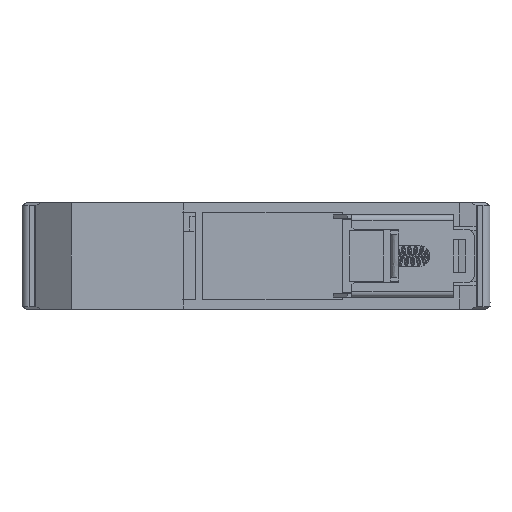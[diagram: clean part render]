
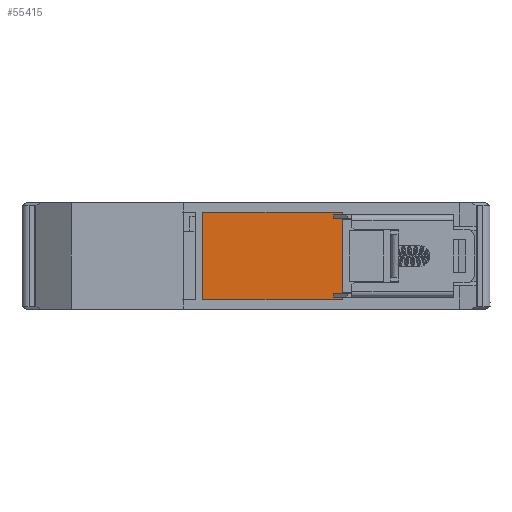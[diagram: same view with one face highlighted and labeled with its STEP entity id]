
A CAD part, front view. The second image highlights one B-rep face of the part: STEP entity #55415.
In plain terms, the highlighted planar face has unit normal (0, -1, 0).
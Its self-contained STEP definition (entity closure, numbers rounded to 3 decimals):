
#14002 = PLANE('',#14003);
#14003 = AXIS2_PLACEMENT_3D('',#14004,#14005,#14006);
#14004 = CARTESIAN_POINT('',(234.989,-403.101,
    154.775));
#14005 = DIRECTION('',(1.,0.,0.));
#14006 = DIRECTION('',(0.,0.,1.));
#14022 = VERTEX_POINT('',#14023);
#14023 = CARTESIAN_POINT('',(234.989,-402.101,145.5));
#14037 = PLANE('',#14038);
#14038 = AXIS2_PLACEMENT_3D('',#14039,#14040,#14041);
#14039 = CARTESIAN_POINT('',(249.789,-403.101,145.5));
#14040 = DIRECTION('',(0.,0.,1.));
#14041 = DIRECTION('',(0.,-1.,0.));
#14049 = EDGE_CURVE('',#14022,#14050,#14052,.T.);
#14050 = VERTEX_POINT('',#14051);
#14051 = CARTESIAN_POINT('',(234.989,-402.101,164.05));
#14052 = SURFACE_CURVE('',#14053,(#14057,#14064),.PCURVE_S1.);
#14053 = LINE('',#14054,#14055);
#14054 = CARTESIAN_POINT('',(234.989,-402.101,145.5));
#14055 = VECTOR('',#14056,1.);
#14056 = DIRECTION('',(0.,0.,1.));
#14057 = PCURVE('',#14002,#14058);
#14058 = DEFINITIONAL_REPRESENTATION('',(#14059),#14063);
#14059 = LINE('',#14060,#14061);
#14060 = CARTESIAN_POINT('',(-9.275,-1.));
#14061 = VECTOR('',#14062,1.);
#14062 = DIRECTION('',(1.,0.));
#14063 = ( GEOMETRIC_REPRESENTATION_CONTEXT(2) 
PARAMETRIC_REPRESENTATION_CONTEXT() REPRESENTATION_CONTEXT('2D SPACE',''
  ) );
#14064 = PCURVE('',#14065,#14070);
#14065 = PLANE('',#14066);
#14066 = AXIS2_PLACEMENT_3D('',#14067,#14068,#14069);
#14067 = CARTESIAN_POINT('',(249.789,-402.101,
    154.766));
#14068 = DIRECTION('',(0.,-1.,0.));
#14069 = DIRECTION('',(0.,0.,-1.));
#14070 = DEFINITIONAL_REPRESENTATION('',(#14071),#14075);
#14071 = LINE('',#14072,#14073);
#14072 = CARTESIAN_POINT('',(9.266,-14.8));
#14073 = VECTOR('',#14074,1.);
#14074 = DIRECTION('',(-1.,0.));
#14075 = ( GEOMETRIC_REPRESENTATION_CONTEXT(2) 
PARAMETRIC_REPRESENTATION_CONTEXT() REPRESENTATION_CONTEXT('2D SPACE',''
  ) );
#14091 = PLANE('',#14092);
#14092 = AXIS2_PLACEMENT_3D('',#14093,#14094,#14095);
#14093 = CARTESIAN_POINT('',(249.789,-403.101,164.05));
#14094 = DIRECTION('',(0.,0.,-1.));
#14095 = DIRECTION('',(0.,1.,0.));
#14130 = EDGE_CURVE('',#14050,#14131,#14133,.T.);
#14131 = VERTEX_POINT('',#14132);
#14132 = CARTESIAN_POINT('',(264.589,-402.101,164.05));
#14133 = SURFACE_CURVE('',#14134,(#14138,#14145),.PCURVE_S1.);
#14134 = LINE('',#14135,#14136);
#14135 = CARTESIAN_POINT('',(234.989,-402.101,164.05));
#14136 = VECTOR('',#14137,1.);
#14137 = DIRECTION('',(1.,0.,0.));
#14138 = PCURVE('',#14091,#14139);
#14139 = DEFINITIONAL_REPRESENTATION('',(#14140),#14144);
#14140 = LINE('',#14141,#14142);
#14141 = CARTESIAN_POINT('',(1.,-14.8));
#14142 = VECTOR('',#14143,1.);
#14143 = DIRECTION('',(0.,1.));
#14144 = ( GEOMETRIC_REPRESENTATION_CONTEXT(2) 
PARAMETRIC_REPRESENTATION_CONTEXT() REPRESENTATION_CONTEXT('2D SPACE',''
  ) );
#14145 = PCURVE('',#14065,#14146);
#14146 = DEFINITIONAL_REPRESENTATION('',(#14147),#14151);
#14147 = LINE('',#14148,#14149);
#14148 = CARTESIAN_POINT('',(-9.284,-14.8));
#14149 = VECTOR('',#14150,1.);
#14150 = DIRECTION('',(0.,1.));
#14151 = ( GEOMETRIC_REPRESENTATION_CONTEXT(2) 
PARAMETRIC_REPRESENTATION_CONTEXT() REPRESENTATION_CONTEXT('2D SPACE',''
  ) );
#14167 = PLANE('',#14168);
#14168 = AXIS2_PLACEMENT_3D('',#14169,#14170,#14171);
#14169 = CARTESIAN_POINT('',(264.589,-405.051,
    154.773));
#14170 = DIRECTION('',(-1.,0.,0.));
#14171 = DIRECTION('',(0.,0.,1.));
#14183 = EDGE_CURVE('',#14131,#14184,#14186,.T.);
#14184 = VERTEX_POINT('',#14185);
#14185 = CARTESIAN_POINT('',(264.589,-402.101,145.5));
#14186 = SURFACE_CURVE('',#14187,(#14191,#14198),.PCURVE_S1.);
#14187 = LINE('',#14188,#14189);
#14188 = CARTESIAN_POINT('',(264.589,-402.101,164.05));
#14189 = VECTOR('',#14190,1.);
#14190 = DIRECTION('',(0.,0.,-1.));
#14191 = PCURVE('',#14167,#14192);
#14192 = DEFINITIONAL_REPRESENTATION('',(#14193),#14197);
#14193 = LINE('',#14194,#14195);
#14194 = CARTESIAN_POINT('',(9.277,2.95));
#14195 = VECTOR('',#14196,1.);
#14196 = DIRECTION('',(-1.,0.));
#14197 = ( GEOMETRIC_REPRESENTATION_CONTEXT(2) 
PARAMETRIC_REPRESENTATION_CONTEXT() REPRESENTATION_CONTEXT('2D SPACE',''
  ) );
#14198 = PCURVE('',#14065,#14199);
#14199 = DEFINITIONAL_REPRESENTATION('',(#14200),#14204);
#14200 = LINE('',#14201,#14202);
#14201 = CARTESIAN_POINT('',(-9.284,14.8));
#14202 = VECTOR('',#14203,1.);
#14203 = DIRECTION('',(1.,0.));
#14204 = ( GEOMETRIC_REPRESENTATION_CONTEXT(2) 
PARAMETRIC_REPRESENTATION_CONTEXT() REPRESENTATION_CONTEXT('2D SPACE',''
  ) );
#55415 = ADVANCED_FACE('',(#55416),#14065,.T.);
#55416 = FACE_BOUND('',#55417,.T.);
#55417 = EDGE_LOOP('',(#55418,#55419,#55440,#55441));
#55418 = ORIENTED_EDGE('',*,*,#14049,.F.);
#55419 = ORIENTED_EDGE('',*,*,#55420,.T.);
#55420 = EDGE_CURVE('',#14022,#14184,#55421,.T.);
#55421 = SURFACE_CURVE('',#55422,(#55426,#55433),.PCURVE_S1.);
#55422 = LINE('',#55423,#55424);
#55423 = CARTESIAN_POINT('',(234.989,-402.101,145.5));
#55424 = VECTOR('',#55425,1.);
#55425 = DIRECTION('',(1.,0.,0.));
#55426 = PCURVE('',#14065,#55427);
#55427 = DEFINITIONAL_REPRESENTATION('',(#55428),#55432);
#55428 = LINE('',#55429,#55430);
#55429 = CARTESIAN_POINT('',(9.266,-14.8));
#55430 = VECTOR('',#55431,1.);
#55431 = DIRECTION('',(0.,1.));
#55432 = ( GEOMETRIC_REPRESENTATION_CONTEXT(2) 
PARAMETRIC_REPRESENTATION_CONTEXT() REPRESENTATION_CONTEXT('2D SPACE',''
  ) );
#55433 = PCURVE('',#14037,#55434);
#55434 = DEFINITIONAL_REPRESENTATION('',(#55435),#55439);
#55435 = LINE('',#55436,#55437);
#55436 = CARTESIAN_POINT('',(-1.,-14.8));
#55437 = VECTOR('',#55438,1.);
#55438 = DIRECTION('',(0.,1.));
#55439 = ( GEOMETRIC_REPRESENTATION_CONTEXT(2) 
PARAMETRIC_REPRESENTATION_CONTEXT() REPRESENTATION_CONTEXT('2D SPACE',''
  ) );
#55440 = ORIENTED_EDGE('',*,*,#14183,.F.);
#55441 = ORIENTED_EDGE('',*,*,#14130,.F.);
